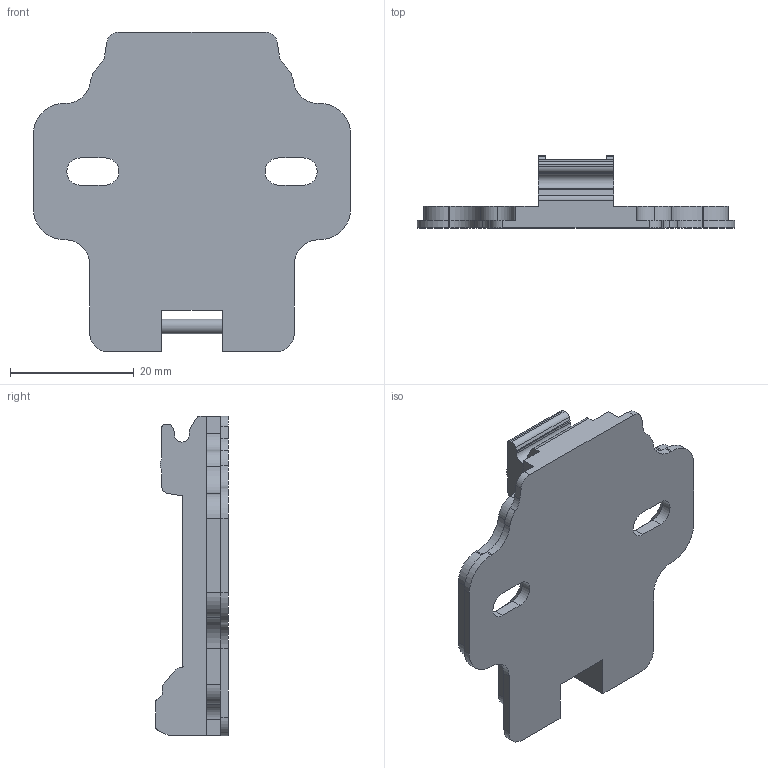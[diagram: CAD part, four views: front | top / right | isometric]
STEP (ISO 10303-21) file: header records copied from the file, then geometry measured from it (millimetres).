
FILE_DESCRIPTION (( 'STEP AP203' ), '1' );
FILE_NAME ('81H20AQ.STEP', '2020-02-12T02:36:50', ( 'Windows 蚚誧' ), ( '' ), 'SwSTEP 2.0', 'SolidWorks 2012', '' );
FILE_SCHEMA (( 'CONFIG_CONTROL_DESIGN' ));
Length unit declared in the file: millimetre
Products named in the file (1): 81H20AQ
Bounding box: 51.2 x 11.7 x 51.6 mm (x, y, z)
Volume: 8975.3 mm3; surface area: 5617.8 mm2
Topology: 1 solids, 1 shells, 135 faces, 391 edges, 258 vertices
Faces by surface type: plane 75, cylinder 56, cone 4
Entity records: 4546 total; most frequent: CARTESIAN_POINT 785, ORIENTED_EDGE 782, DIRECTION 779, EDGE_CURVE 391, VECTOR 275, LINE 275, VERTEX_POINT 258, AXIS2_PLACEMENT_3D 252
